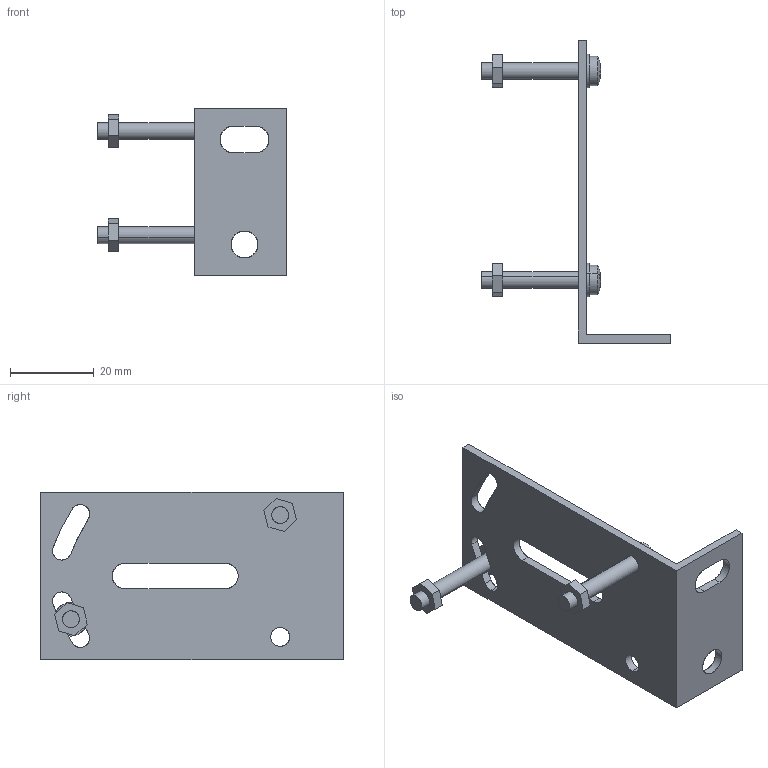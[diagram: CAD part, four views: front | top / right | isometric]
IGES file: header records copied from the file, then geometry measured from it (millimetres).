
Start section: SolidWorks IGES file using analytic representation for surfaces
Global section: file name: C:\catalog\MS-NX5-1.IGS; native system: SolidWorks 2005 by SolidWorks Corporation; preprocessor: SolidWorks 2005 by SolidWorks Corporation; author: yk0651; date: 070713.181622; units: millimetre
Bounding box: 45 x 72 x 40 mm (x, y, z)
Surface area: 8771.5 mm2 (no closed solid volume)
Topology: 0 solids, 0 shells, 101 faces, 1408 edges, 1408 vertices
Faces by surface type: bspline 60, revolution 41
